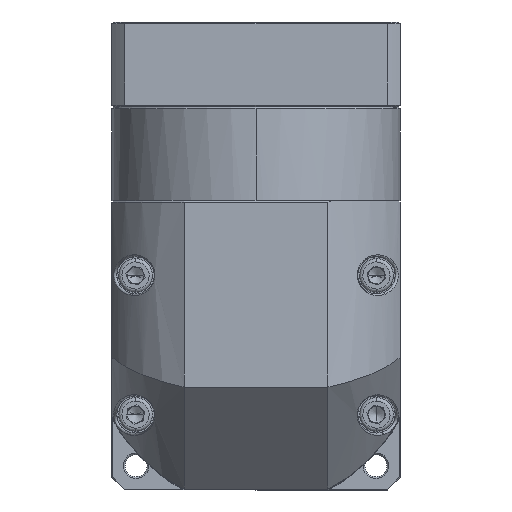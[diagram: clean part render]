
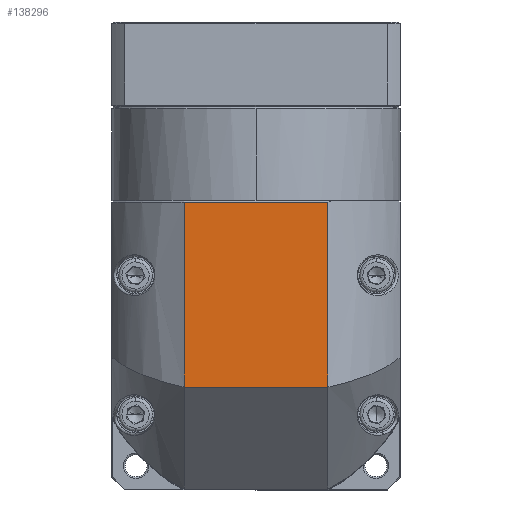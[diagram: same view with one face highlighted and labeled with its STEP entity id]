
A CAD part, top view. The second image highlights one B-rep face of the part: STEP entity #138296.
In plain terms, the highlighted planar face has unit normal (0, 0, 1).
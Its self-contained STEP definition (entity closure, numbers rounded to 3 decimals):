
#2581 = CARTESIAN_POINT ( 'NONE',  ( -24.262, 72.246, 50.811 ) ) ;
#3322 = LINE ( 'NONE', #135544, #55308 ) ;
#5323 = ORIENTED_EDGE ( 'NONE', *, *, #71604, .F. ) ;
#11787 = LINE ( 'NONE', #112198, #79193 ) ;
#15117 = VECTOR ( 'NONE', #15869, 1000. ) ;
#15869 = DIRECTION ( 'NONE',  ( 0., -1., 0. ) ) ;
#18420 = VERTEX_POINT ( 'NONE', #45442 ) ;
#24364 = DIRECTION ( 'NONE',  ( 0., 1., 0. ) ) ;
#29501 = CARTESIAN_POINT ( 'NONE',  ( -66.688, 72.246, 50.811 ) ) ;
#30856 = VERTEX_POINT ( 'NONE', #136271 ) ;
#42745 = EDGE_LOOP ( 'NONE', ( #132338, #48578, #5323, #56538 ) ) ;
#45442 = CARTESIAN_POINT ( 'NONE',  ( -24.262, 17.746, 50.811 ) ) ;
#46463 = CARTESIAN_POINT ( 'NONE',  ( -66.688, -27.754, 50.811 ) ) ;
#47279 = EDGE_CURVE ( 'NONE', #18420, #30856, #3322, .T. ) ;
#48578 = ORIENTED_EDGE ( 'NONE', *, *, #47279, .F. ) ;
#55308 = VECTOR ( 'NONE', #90513, 1000. ) ;
#56538 = ORIENTED_EDGE ( 'NONE', *, *, #122883, .T. ) ;
#58785 = LINE ( 'NONE', #100553, #15117 ) ;
#62049 = PLANE ( 'NONE',  #111811 ) ;
#68435 = DIRECTION ( 'NONE',  ( -1., 0., 0. ) ) ;
#71604 = EDGE_CURVE ( 'NONE', #83936, #18420, #58785, .T. ) ;
#71937 = CARTESIAN_POINT ( 'NONE',  ( -45.475, 30.246, 50.811 ) ) ;
#79193 = VECTOR ( 'NONE', #68435, 1000. ) ;
#83936 = VERTEX_POINT ( 'NONE', #2581 ) ;
#84938 = VECTOR ( 'NONE', #24364, 1000. ) ;
#88765 = VERTEX_POINT ( 'NONE', #29501 ) ;
#90513 = DIRECTION ( 'NONE',  ( -1., 0., 0. ) ) ;
#95123 = EDGE_CURVE ( 'NONE', #30856, #88765, #123654, .T. ) ;
#100553 = CARTESIAN_POINT ( 'NONE',  ( -24.262, -27.754, 50.811 ) ) ;
#104881 = DIRECTION ( 'NONE',  ( 0., 0., 1. ) ) ;
#111811 = AXIS2_PLACEMENT_3D ( 'NONE', #71937, #104881, #135869 ) ;
#112198 = CARTESIAN_POINT ( 'NONE',  ( -45.475, 72.246, 50.811 ) ) ;
#117869 = FACE_OUTER_BOUND ( 'NONE', #42745, .T. ) ;
#122883 = EDGE_CURVE ( 'NONE', #83936, #88765, #11787, .T. ) ;
#123654 = LINE ( 'NONE', #46463, #84938 ) ;
#132338 = ORIENTED_EDGE ( 'NONE', *, *, #95123, .F. ) ;
#135544 = CARTESIAN_POINT ( 'NONE',  ( -45.475, 17.746, 50.811 ) ) ;
#135869 = DIRECTION ( 'NONE',  ( 0., 1., 0. ) ) ;
#136271 = CARTESIAN_POINT ( 'NONE',  ( -66.688, 17.746, 50.811 ) ) ;
#138296 = ADVANCED_FACE ( 'NONE', ( #117869 ), #62049, .T. ) ;
